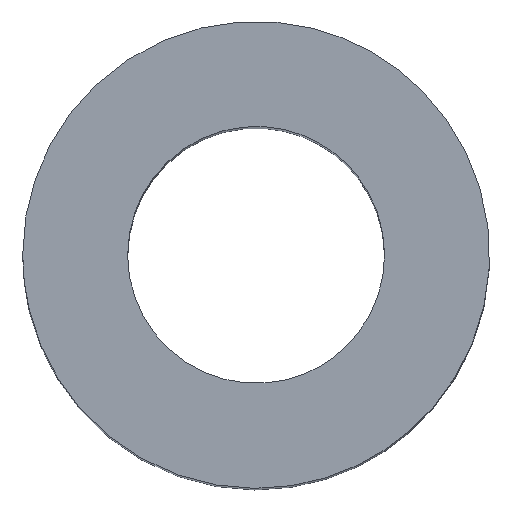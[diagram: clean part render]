
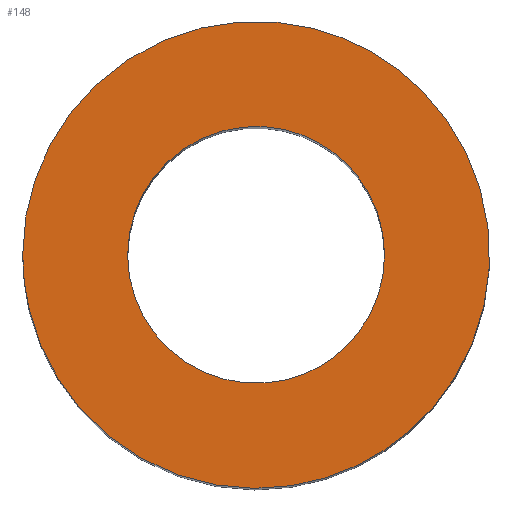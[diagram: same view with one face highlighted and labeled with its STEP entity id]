
A CAD part, top view. The second image highlights one B-rep face of the part: STEP entity #148.
In plain terms, the highlighted free-form (B-spline) face has degree [1, 1] with [2, 2] control points.
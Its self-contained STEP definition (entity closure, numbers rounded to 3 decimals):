
#115 = EDGE_CURVE('',#116,#116,#118,.T.);
#116 = VERTEX_POINT('',#117);
#117 = CARTESIAN_POINT('',(-3.,0.,12.));
#118 = ( BOUNDED_CURVE() B_SPLINE_CURVE(2,(#119,#120,#121,#122,#123,#124
,#125),.UNSPECIFIED.,.T.,.F.) B_SPLINE_CURVE_WITH_KNOTS((1,2,2,2,2,1),(
    -2.094,0.,2.094,4.189,6.283,
8.378),.UNSPECIFIED.) CURVE() GEOMETRIC_REPRESENTATION_ITEM() 
RATIONAL_B_SPLINE_CURVE((1.,0.5,1.,0.5,1.,0.5,1.)) REPRESENTATION_ITEM(
  '') );
#119 = CARTESIAN_POINT('',(-3.,0.,12.));
#120 = CARTESIAN_POINT('',(-3.,5.196,12.));
#121 = CARTESIAN_POINT('',(1.5,2.598,12.));
#122 = CARTESIAN_POINT('',(6.,0.,12.));
#123 = CARTESIAN_POINT('',(1.5,-2.598,12.));
#124 = CARTESIAN_POINT('',(-3.,-5.196,12.));
#125 = CARTESIAN_POINT('',(-3.,0.,12.));
#148 = ADVANCED_FACE('',(#149,#163),#166,.T.);
#149 = FACE_BOUND('',#150,.T.);
#150 = EDGE_LOOP('',(#151));
#151 = ORIENTED_EDGE('',*,*,#152,.T.);
#152 = EDGE_CURVE('',#153,#153,#155,.T.);
#153 = VERTEX_POINT('',#154);
#154 = CARTESIAN_POINT('',(-1.65,0.,12.));
#155 = ( BOUNDED_CURVE() B_SPLINE_CURVE(2,(#156,#157,#158,#159,#160,#161
,#162),.UNSPECIFIED.,.T.,.F.) B_SPLINE_CURVE_WITH_KNOTS((1,2,2,2,2,1),(
    -2.094,0.,2.094,4.189,6.283,
8.378),.UNSPECIFIED.) CURVE() GEOMETRIC_REPRESENTATION_ITEM() 
RATIONAL_B_SPLINE_CURVE((1.,0.5,1.,0.5,1.,0.5,1.)) REPRESENTATION_ITEM(
  '') );
#156 = CARTESIAN_POINT('',(-1.65,0.,12.));
#157 = CARTESIAN_POINT('',(-1.65,2.858,12.));
#158 = CARTESIAN_POINT('',(0.825,1.429,12.));
#159 = CARTESIAN_POINT('',(3.3,0.,12.));
#160 = CARTESIAN_POINT('',(0.825,-1.429,12.));
#161 = CARTESIAN_POINT('',(-1.65,-2.858,12.));
#162 = CARTESIAN_POINT('',(-1.65,0.,12.));
#163 = FACE_BOUND('',#164,.T.);
#164 = EDGE_LOOP('',(#165));
#165 = ORIENTED_EDGE('',*,*,#115,.F.);
#166 = B_SPLINE_SURFACE_WITH_KNOTS('',1,1,(
    (#167,#168)
    ,(#169,#170
  )),.UNSPECIFIED.,.F.,.F.,.F.,(2,2),(2,2),(0.,6.),(-3.,3.),
  .PIECEWISE_BEZIER_KNOTS.);
#167 = CARTESIAN_POINT('',(-3.,-3.,12.));
#168 = CARTESIAN_POINT('',(-3.,3.,12.));
#169 = CARTESIAN_POINT('',(3.,-3.,12.));
#170 = CARTESIAN_POINT('',(3.,3.,12.));
